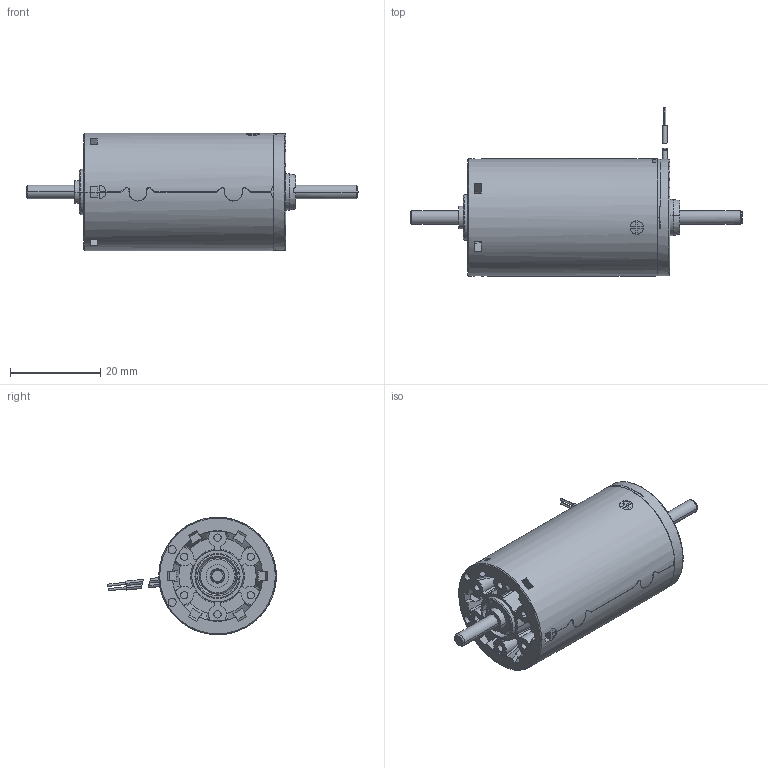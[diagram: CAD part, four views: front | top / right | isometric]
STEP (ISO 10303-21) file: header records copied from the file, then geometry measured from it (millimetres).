
FILE_DESCRIPTION((''),'2;1');
FILE_NAME('353606_AMAX26_GB_11W_KL_2WE_K','2016-11-22T',('mmagvisi'),(''),'CREO PARAMETRIC BY PTC INC, 2016050','CREO PARAMETRIC BY PTC INC, 2016050','');
FILE_SCHEMA(('CONFIG_CONTROL_DESIGN'));
Length unit declared in the file: millimetre
Products named in the file (1): 353606_AMAX26_GB_11W_KL_2WE_K
Bounding box: 73.5 x 37.3 x 26 mm (x, y, z)
Volume: 23180.7 mm3; surface area: 6633.5 mm2
Topology: 3 solids, 3 shells, 356 faces, 959 edges, 628 vertices
Faces by surface type: plane 183, cylinder 116, cone 32, bspline 24, torus 1
Entity records: 17916 total; most frequent: CARTESIAN_POINT 4793, ORIENTED_EDGE 1918, DIRECTION 1712, PRESENTATION_STYLE_ASSIGNMENT 1146, STYLED_ITEM 962, CURVE_STYLE 959, EDGE_CURVE 959, AXIS2_PLACEMENT_3D 637
